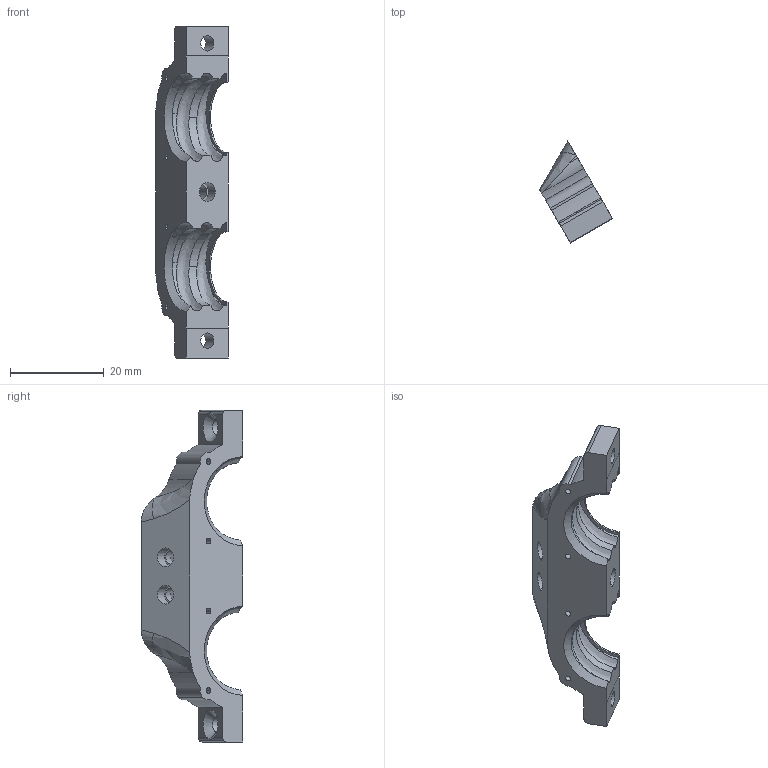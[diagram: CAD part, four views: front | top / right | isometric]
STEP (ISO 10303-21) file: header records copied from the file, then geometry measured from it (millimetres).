
FILE_DESCRIPTION(/* description */ (''),/* implementation_level */ '2;1');
FILE_NAME(/* name */ '2.stp',/* time_stamp */ '2026-03-03T17:43:36+02:00',/* author */ (''),/* organization */ (''),/* preprocessor_version */ 'ST-DEVELOPER v20',/* originating_system */ 'SIEMENS PLM Software NX2412.8300',/* authorisation */ '');
FILE_SCHEMA (('AUTOMOTIVE_DESIGN { 1 0 10303 214 3 1 1 1 }'));
Length unit declared in the file: millimetre
Products named in the file (1): V9-623 - ws7040 splitter.step_1
Bounding box: 15.55 x 21.73 x 71 mm (x, y, z)
Volume: 6085.1 mm3; surface area: 3803.1 mm2
Topology: 1 solids, 1 shells, 98 faces, 266 edges, 174 vertices
Faces by surface type: cylinder 62, plane 20, bspline 10, cone 6
Entity records: 5874 total; most frequent: CARTESIAN_POINT 3385, ORIENTED_EDGE 532, DIRECTION 500, EDGE_CURVE 266, AXIS2_PLACEMENT_3D 197, VERTEX_POINT 174, EDGE_LOOP 114, CIRCLE 108
